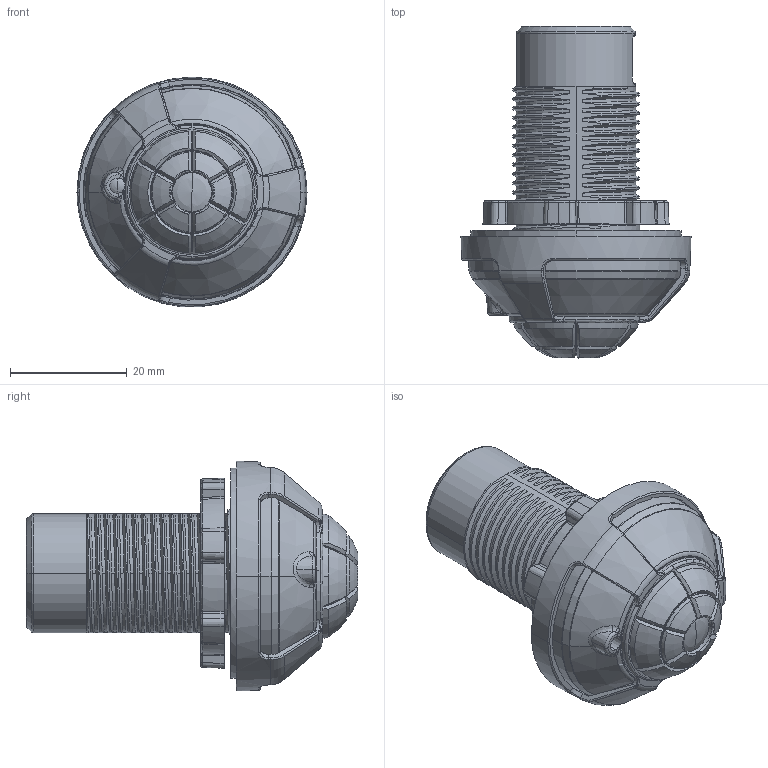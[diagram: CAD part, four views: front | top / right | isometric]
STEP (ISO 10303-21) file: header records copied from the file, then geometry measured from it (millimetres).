
FILE_DESCRIPTION(('CoCreate Modeling STEP Export'),'2;1');
FILE_NAME('RA251HA8_ALL_20230526.stp','2023-05-26T17:11:40',(''),(''),'CoCreate Modeling STEP processor for AP214 (Solid Model)','CoCreate Modeling 16.00A 16-Aug-2008 (C) Parametric Technology GmbH','');
FILE_SCHEMA(('AUTOMOTIVE_DESIGN { 1 0 10303 214 1 1 1 1 }'));
Length unit declared in the file: millimetre
Products named in the file (1): RA251HA8
Bounding box: 39.39 x 56.81 x 39.34 mm (x, y, z)
Volume: 13865.3 mm3; surface area: 17091.4 mm2
Topology: 1 solids, 1 shells, 1191 faces, 3219 edges, 2024 vertices
Faces by surface type: plane 316, bspline 292, cylinder 277, cone 168, torus 76, sphere 51, extrusion 11
Entity records: 76865 total; most frequent: CARTESIAN_POINT 51928, ORIENTED_EDGE 6394, DIRECTION 3479, EDGE_CURVE 3196, VERTEX_POINT 2023, AXIS2_PLACEMENT_3D 1291, EDGE_LOOP 1217, FACE_OUTER_BOUND 1191
